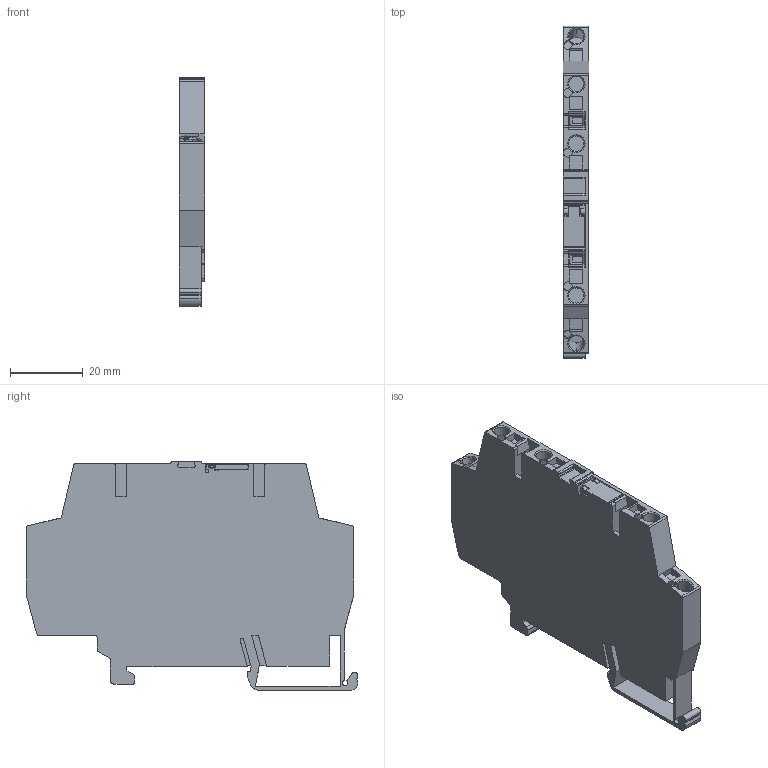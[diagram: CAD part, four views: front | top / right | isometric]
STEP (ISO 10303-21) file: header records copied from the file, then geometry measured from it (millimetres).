
FILE_DESCRIPTION (( 'STEP AP214' ), '1' );
FILE_NAME ('CEM01.STEP', '2024-04-05T08:06:46', ( '' ), ( '' ), 'SwSTEP 2.0', 'SolidWorks 2022', '' );
FILE_SCHEMA (( 'AUTOMOTIVE_DESIGN' ));
Length unit declared in the file: millimetre
Products named in the file (1): CEM01
Bounding box: 7 x 91.5 x 63 mm (x, y, z)
Volume: 29822.8 mm3; surface area: 13314.3 mm2
Topology: 1 solids, 1 shells, 277 faces, 756 edges, 494 vertices
Faces by surface type: plane 175, cylinder 90, cone 10, sphere 2
Entity records: 11767 total; most frequent: CARTESIAN_POINT 1528, ORIENTED_EDGE 1512, DIRECTION 1511, EDGE_CURVE 756, VECTOR 557, LINE 557, VERTEX_POINT 494, AXIS2_PLACEMENT_3D 477
